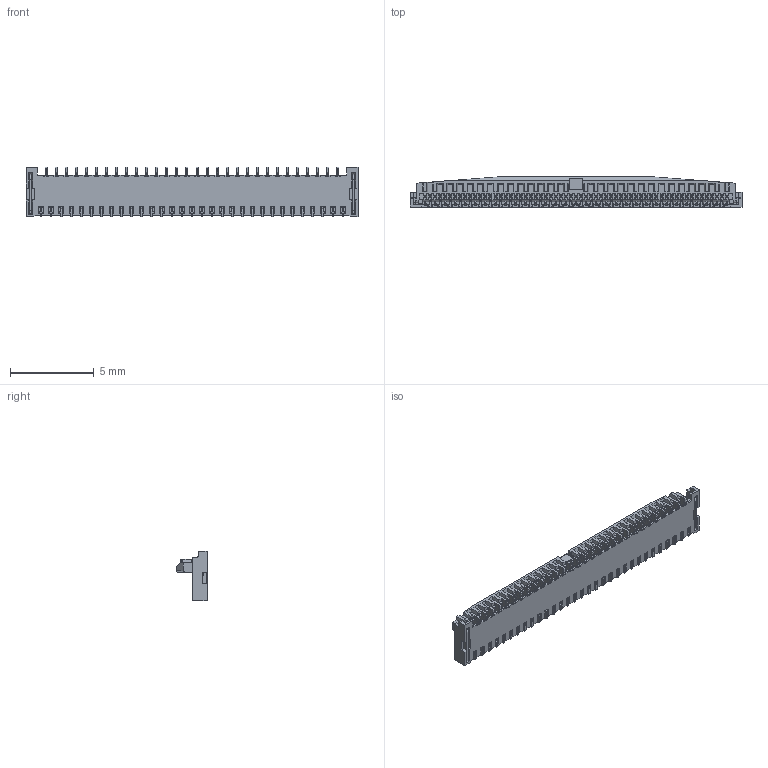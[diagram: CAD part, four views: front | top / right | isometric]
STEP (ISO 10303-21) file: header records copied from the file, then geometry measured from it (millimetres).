
FILE_DESCRIPTION (( 'STEP AP203' ), '1' );
FILE_NAME ('20605-061E-02C ACT OPEN STEP R4 ALL.STEP', '2015-09-14T05:43:28', ( '' ), ( '' ), 'SwSTEP 2.0', 'SolidWorks 2012', '' );
FILE_SCHEMA (( 'CONFIG_CONTROL_DESIGN' ));
Products named in the file (1): 20605-061E-02C ACT OPEN STEP R4 ALL
Bounding box: 19.8 x 1.85 x 2.95 mm (x, y, z)
Volume: 46.6 mm3; surface area: 299.4 mm2
Topology: 1 solids, 1 shells, 5882 faces, 17091 edges, 11274 vertices
Faces by surface type: plane 4890, cylinder 966, bspline 24, torus 2
Entity records: 192548 total; most frequent: CARTESIAN_POINT 36920, ORIENTED_EDGE 34182, DIRECTION 29839, EDGE_CURVE 17091, VECTOR 14861, LINE 14861, VERTEX_POINT 11274, AXIS2_PLACEMENT_3D 7489
